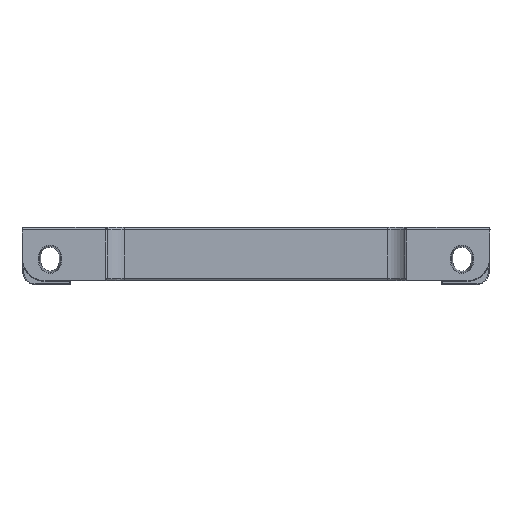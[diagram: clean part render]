
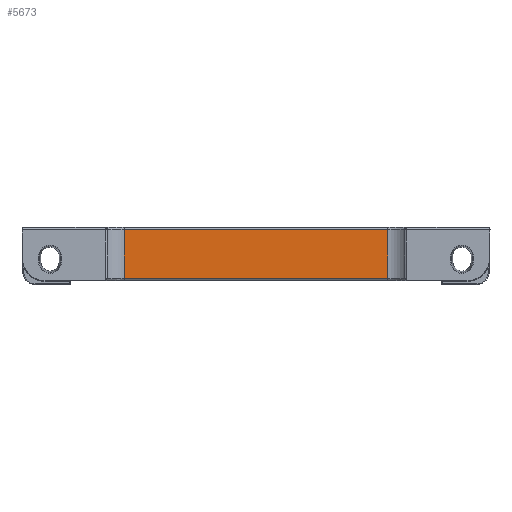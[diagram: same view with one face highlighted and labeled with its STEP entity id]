
A CAD part, front view. The second image highlights one B-rep face of the part: STEP entity #5673.
In plain terms, the highlighted planar face has unit normal (0, -1, 0).
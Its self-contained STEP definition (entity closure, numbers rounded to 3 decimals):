
#5673=ADVANCED_FACE('',(#8187),#7885,.T.);
#7885=PLANE('',#34089);
#8187=FACE_OUTER_BOUND('',#10401,.T.);
#10401=EDGE_LOOP('',(#13244,#13245,#13246,#13247));
#13244=ORIENTED_EDGE('',*,*,#26515,.T.);
#13245=ORIENTED_EDGE('',*,*,#26516,.F.);
#13246=ORIENTED_EDGE('',*,*,#26517,.T.);
#13247=ORIENTED_EDGE('',*,*,#26518,.F.);
#23562=VERTEX_POINT('',#46530);
#23563=VERTEX_POINT('',#46531);
#23564=VERTEX_POINT('',#46533);
#23565=VERTEX_POINT('',#46535);
#26515=EDGE_CURVE('',#23562,#23563,#31454,.T.);
#26516=EDGE_CURVE('',#23564,#23563,#31455,.T.);
#26517=EDGE_CURVE('',#23564,#23565,#31456,.T.);
#26518=EDGE_CURVE('',#23562,#23565,#31457,.T.);
#31454=LINE('',#46529,#32758);
#31455=LINE('',#46532,#32759);
#31456=LINE('',#46534,#32760);
#31457=LINE('',#46536,#32761);
#32758=VECTOR('',#37534,1.);
#32759=VECTOR('',#37535,1.);
#32760=VECTOR('',#37536,1.);
#32761=VECTOR('',#37537,1.);
#34089=AXIS2_PLACEMENT_3D('',#46537,#37538,#37539);
#37534=DIRECTION('',(1.,0.,0.));
#37535=DIRECTION('',(0.,0.,-1.));
#37536=DIRECTION('',(-1.,0.,0.));
#37537=DIRECTION('',(0.,0.,1.));
#37538=DIRECTION('',(0.,-1.,0.));
#37539=DIRECTION('',(0.,0.,-1.));
#46529=CARTESIAN_POINT('',(158.179,-17.178,-378.55));
#46530=CARTESIAN_POINT('',(158.179,-17.178,-378.55));
#46531=CARTESIAN_POINT('',(256.695,-17.178,-378.55));
#46532=CARTESIAN_POINT('',(256.695,-17.178,-359.55));
#46533=CARTESIAN_POINT('',(256.695,-17.178,-360.55));
#46534=CARTESIAN_POINT('',(207.437,-17.178,-360.55));
#46535=CARTESIAN_POINT('',(158.179,-17.178,-360.55));
#46536=CARTESIAN_POINT('',(158.179,-17.178,-359.55));
#46537=CARTESIAN_POINT('',(207.437,-17.178,-359.55));
